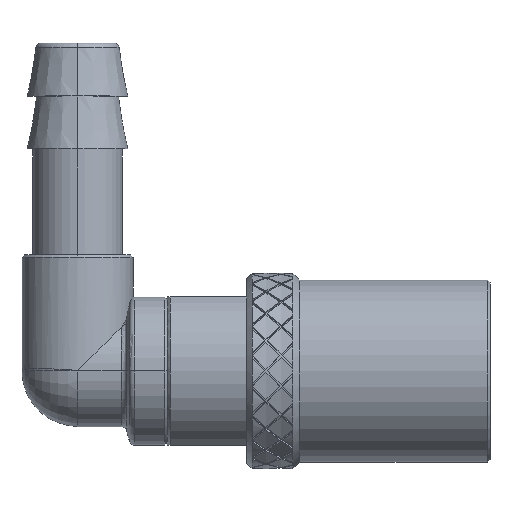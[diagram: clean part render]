
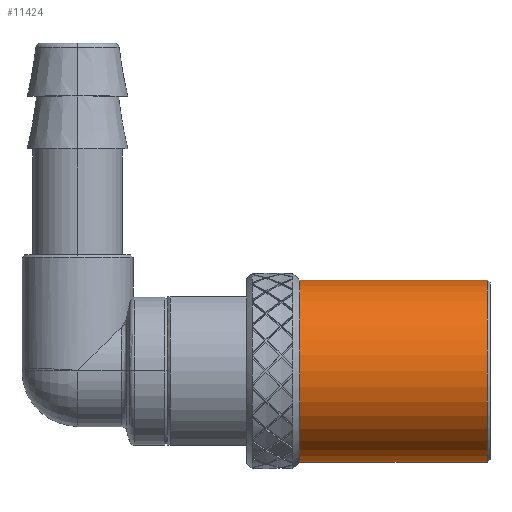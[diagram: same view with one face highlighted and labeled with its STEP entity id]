
A CAD part, top view. The second image highlights one B-rep face of the part: STEP entity #11424.
In plain terms, the highlighted cylindrical face has radius 8.6 mm (diameter 17.2 mm), a partial arc.
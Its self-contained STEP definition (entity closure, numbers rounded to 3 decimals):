
#214 = CIRCLE ( 'NONE', #8567, 8.6 ) ;
#228 = CIRCLE ( 'NONE', #8566, 8.6 ) ;
#405 = LINE ( 'NONE', #14972, #429 ) ;
#424 = LINE ( 'NONE', #14979, #427 ) ;
#427 = VECTOR ( 'NONE', #14988, 1000. ) ;
#429 = VECTOR ( 'NONE', #14990, 1000. ) ;
#1876 = EDGE_CURVE ( 'NONE', #6562, #6561, #228, .T. ) ;
#1877 = EDGE_CURVE ( 'NONE', #6607, #6605, #214, .T. ) ;
#4185 = EDGE_CURVE ( 'NONE', #6562, #6607, #424, .T. ) ;
#4187 = EDGE_CURVE ( 'NONE', #6561, #6605, #405, .T. ) ;
#4366 = ORIENTED_EDGE ( 'NONE', *, *, #1877, .F. ) ;
#4376 = ORIENTED_EDGE ( 'NONE', *, *, #4185, .F. ) ;
#4378 = ORIENTED_EDGE ( 'NONE', *, *, #1876, .T. ) ;
#4380 = ORIENTED_EDGE ( 'NONE', *, *, #4187, .T. ) ;
#6561 = VERTEX_POINT ( 'NONE', #11070 ) ;
#6562 = VERTEX_POINT ( 'NONE', #11071 ) ;
#6605 = VERTEX_POINT ( 'NONE', #11114 ) ;
#6607 = VERTEX_POINT ( 'NONE', #11116 ) ;
#7991 = EDGE_LOOP ( 'NONE', ( #4376, #4378, #4380, #4366 ) ) ;
#8566 = AXIS2_PLACEMENT_3D ( 'NONE', #12009, #12010, #12011 ) ;
#8567 = AXIS2_PLACEMENT_3D ( 'NONE', #12012, #12013, #12014 ) ;
#9769 = DIRECTION ( 'NONE',  ( 0., 1., 0. ) ) ;
#9770 = CARTESIAN_POINT ( 'NONE',  ( -23., 0., 0. ) ) ;
#9771 = DIRECTION ( 'NONE',  ( -1., 0., 0. ) ) ;
#11070 = CARTESIAN_POINT ( 'NONE',  ( -0.25, 8.6, 0. ) ) ;
#11071 = CARTESIAN_POINT ( 'NONE',  ( -0.25, -8.6, 0. ) ) ;
#11114 = CARTESIAN_POINT ( 'NONE',  ( -18., 8.6, 0. ) ) ;
#11116 = CARTESIAN_POINT ( 'NONE',  ( -18., -8.6, 0. ) ) ;
#11424 = ADVANCED_FACE ( 'NONE', ( #15979 ), #15984, .T. ) ;
#12009 = CARTESIAN_POINT ( 'NONE',  ( -0.25, 0., 0. ) ) ;
#12010 = DIRECTION ( 'NONE',  ( -1., 0., 0. ) ) ;
#12011 = DIRECTION ( 'NONE',  ( 0., -1., 0. ) ) ;
#12012 = CARTESIAN_POINT ( 'NONE',  ( -18., 0., 0. ) ) ;
#12013 = DIRECTION ( 'NONE',  ( -1., 0., 0. ) ) ;
#12014 = DIRECTION ( 'NONE',  ( 0., 1., 0. ) ) ;
#12850 = AXIS2_PLACEMENT_3D ( 'NONE', #9770, #9771, #9769 ) ;
#14972 = CARTESIAN_POINT ( 'NONE',  ( -23., 8.6, 0. ) ) ;
#14979 = CARTESIAN_POINT ( 'NONE',  ( -23., -8.6, 0. ) ) ;
#14988 = DIRECTION ( 'NONE',  ( -1., 0., 0. ) ) ;
#14990 = DIRECTION ( 'NONE',  ( -1., 0., 0. ) ) ;
#15979 = FACE_OUTER_BOUND ( 'NONE', #7991, .T. ) ;
#15984 = CYLINDRICAL_SURFACE ( 'NONE', #12850, 8.6 ) ;
